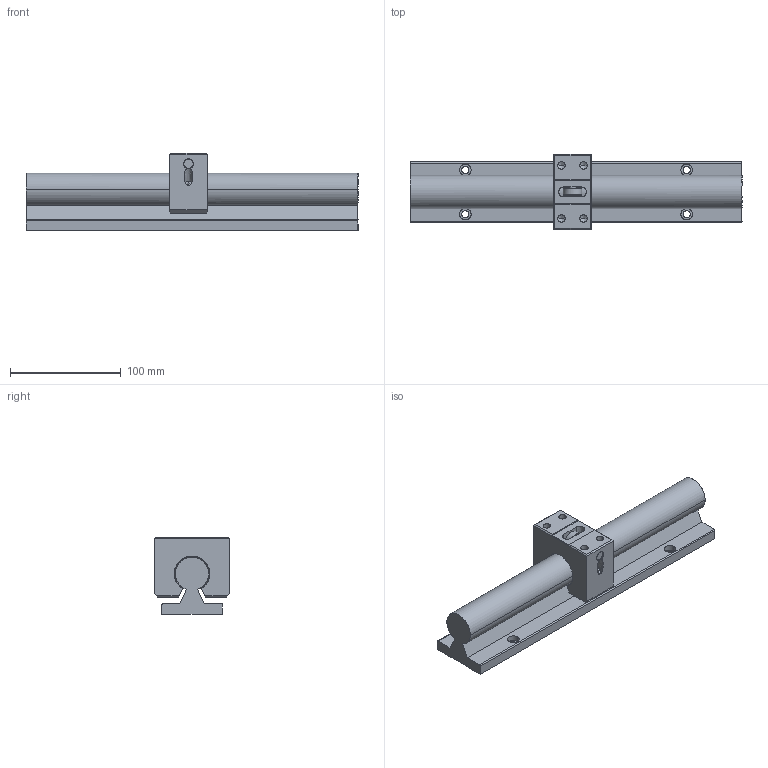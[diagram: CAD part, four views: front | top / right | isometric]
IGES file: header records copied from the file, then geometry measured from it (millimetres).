
Global section: file name: No Iges File Name specified; native system: AutoDesk Inventor R11.0; preprocessor: AutoDesk Inventor Iges Exporter R11.0; author: No Author specified; organization: No Organization specified; date: 20191205.170024; units: millimetre
Bounding box: 300 x 68 x 70 mm (x, y, z)
Surface area: 92143.7 mm2 (no closed solid volume)
Topology: 0 solids, 0 shells, 205 faces, 1362 edges, 1348 vertices
Faces by surface type: bspline 205
